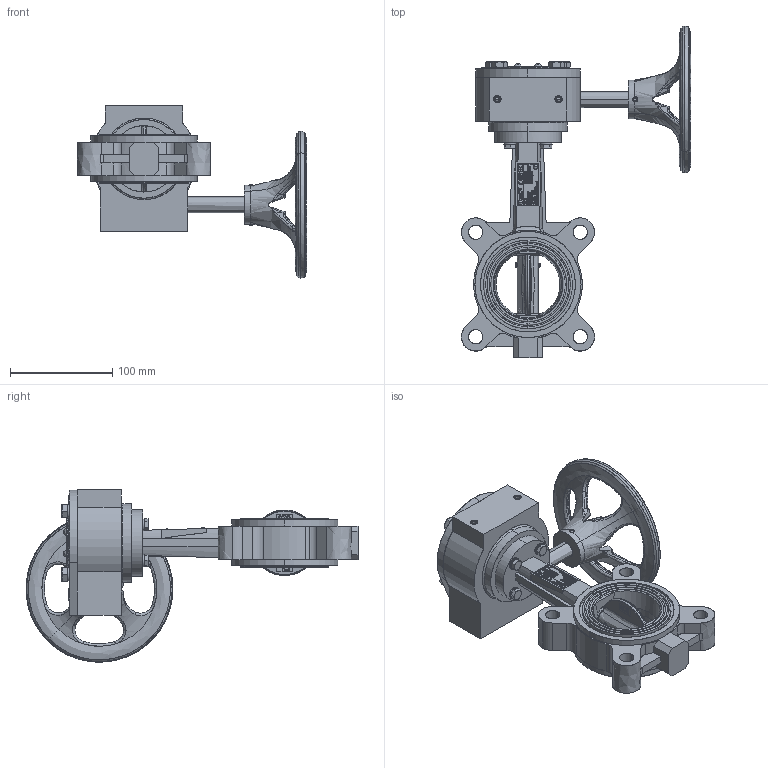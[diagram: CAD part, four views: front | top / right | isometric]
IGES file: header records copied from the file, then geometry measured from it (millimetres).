
Start section: SolidWorks IGES file using analytic representation for surfaces
Global section: file name: H:\BE FABRICATION\BE SERIE\VP\VP SERIE\F072 VPG\plan 3D\VPG-08\LUG\DN65\VPG464X-08XX0065.igs; native system: SolidWorks 2020; preprocessor: SolidWorks 2020; author: k.gigout; date: 220630.101538; units: millimetre
Bounding box: 224.71 x 325.49 x 168.99 mm (x, y, z)
Surface area: 192499.8 mm2 (no closed solid volume)
Topology: 0 solids, 0 shells, 975 faces, 22805 edges, 22793 vertices
Faces by surface type: bspline 733, revolution 242
